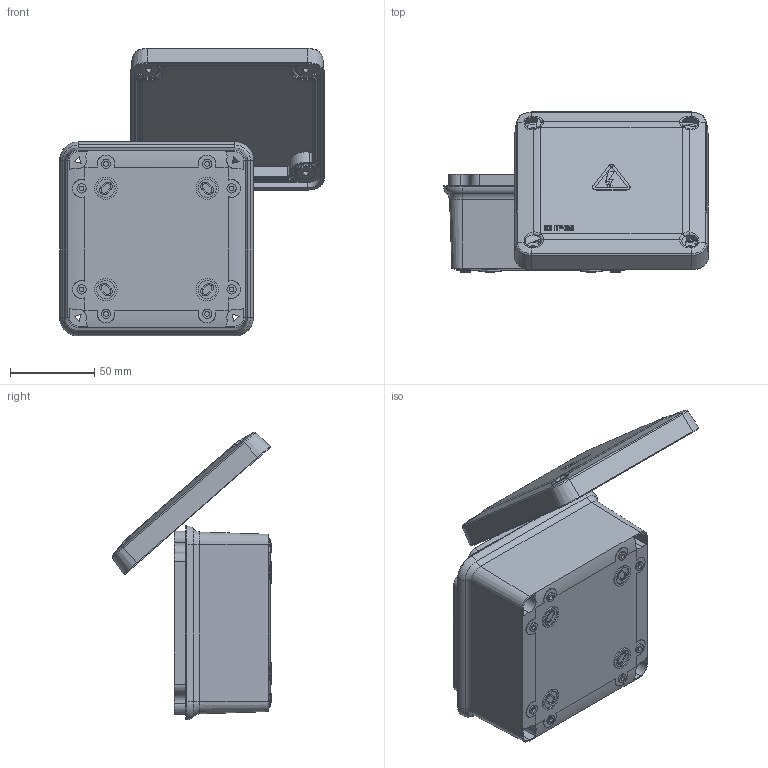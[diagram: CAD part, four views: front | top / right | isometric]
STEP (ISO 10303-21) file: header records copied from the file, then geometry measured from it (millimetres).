
FILE_DESCRIPTION(/* description */ (''),/* implementation_level */ '2;1');
FILE_NAME(/* name */ 'D:\Work at home\Ensamble para copiar\Workspaces\Workspace\caja 115 x 115 x 65\electrical box - 115 x 115 x 65 mm.stp',/* time_stamp */ '2024-09-24T14:23:23-03:00',/* author */ ('albertos'),/* organization */ (''),/* preprocessor_version */ 'ST-DEVELOPER v18.1',/* originating_system */ 'Autodesk Inventor 2022',/* authorisation */ '');
FILE_SCHEMA (('AUTOMOTIVE_DESIGN { 1 0 10303 214 3 1 1 }'));
Length unit declared in the file: millimetre
Products named in the file (3): 02-EL-sin codigo - 115 x 115 x 65 - ; electrical box - 115 x 115 x 65 mm - box; electrical box - 115 x 115 x 65 mm - tape
Assembly tree (2 placements, depth 2):
  02-EL-sin codigo - 115 x 115 x 65 - 
    electrical box - 115 x 115 x 65 mm - box
    electrical box - 115 x 115 x 65 mm - tape
Bounding box: 157.05 x 94.78 x 170.65 mm (x, y, z)
Volume: 151423.9 mm3; surface area: 124383.2 mm2
Topology: 2 solids, 2 shells, 772 faces, 1900 edges, 1224 vertices
Faces by surface type: plane 362, cylinder 230, cone 116, bspline 52, torus 12
Full cylindrical faces by diameter (mm): 2.5 x12, 2.8 x8, 3.5 x4, 5.44 x8, 6.7 x4, 7.4 x8, 9.84 x4, 10.76 x4, 12.84 x4, 13.2 x4
Entity records: 24530 total; most frequent: CARTESIAN_POINT 5890, DIRECTION 3892, ORIENTED_EDGE 3800, EDGE_CURVE 1900, AXIS2_PLACEMENT_3D 1436, VERTEX_POINT 1224, LINE 1020, VECTOR 1020
